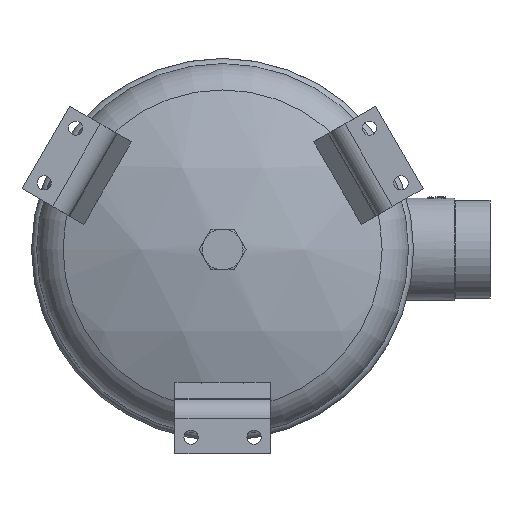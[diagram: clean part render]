
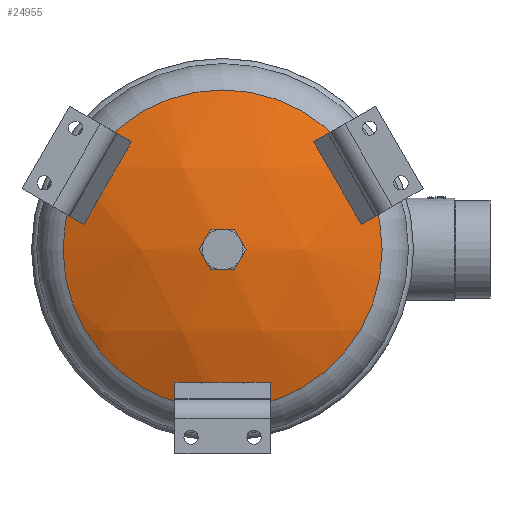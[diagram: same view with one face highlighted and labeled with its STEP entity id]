
A CAD part, front view. The second image highlights one B-rep face of the part: STEP entity #24955.
In plain terms, the highlighted spherical face has radius 279 mm.
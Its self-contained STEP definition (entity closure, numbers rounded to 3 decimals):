
#39=SPHERICAL_SURFACE('',#26829,279.);
#5707=FACE_BOUND('',#8729,.T.);
#5708=FACE_BOUND('',#8730,.T.);
#5709=FACE_BOUND('',#8731,.T.);
#5710=FACE_BOUND('',#8732,.T.);
#7205=FACE_OUTER_BOUND('',#8728,.T.);
#8728=EDGE_LOOP('',(#22754));
#8729=EDGE_LOOP('',(#22755,#22756,#22757,#22758));
#8730=EDGE_LOOP('',(#22759,#22760,#22761,#22762));
#8731=EDGE_LOOP('',(#22763,#22764,#22765,#22766));
#8732=EDGE_LOOP('',(#22767));
#9204=CIRCLE('',#26727,16.588);
#9205=CIRCLE('',#26729,16.588);
#9206=CIRCLE('',#26731,278.902);
#9213=CIRCLE('',#26742,278.999);
#9220=CIRCLE('',#26760,16.588);
#9221=CIRCLE('',#26762,16.588);
#9222=CIRCLE('',#26764,278.902);
#9229=CIRCLE('',#26775,278.999);
#9236=CIRCLE('',#26793,16.588);
#9237=CIRCLE('',#26795,16.588);
#9238=CIRCLE('',#26797,278.902);
#9245=CIRCLE('',#26808,278.999);
#9253=CIRCLE('',#26828,117.235);
#9254=CIRCLE('',#26830,11.25);
#11622=VERTEX_POINT('',#52934);
#11623=VERTEX_POINT('',#52935);
#11626=VERTEX_POINT('',#52943);
#11627=VERTEX_POINT('',#52944);
#11654=VERTEX_POINT('',#53029);
#11655=VERTEX_POINT('',#53030);
#11658=VERTEX_POINT('',#53038);
#11659=VERTEX_POINT('',#53039);
#11686=VERTEX_POINT('',#53124);
#11687=VERTEX_POINT('',#53125);
#11690=VERTEX_POINT('',#53133);
#11691=VERTEX_POINT('',#53134);
#11719=VERTEX_POINT('',#53222);
#11720=VERTEX_POINT('',#53225);
#15266=EDGE_CURVE('',#11622,#11623,#9204,.T.);
#15270=EDGE_CURVE('',#11626,#11627,#9205,.T.);
#15274=EDGE_CURVE('',#11623,#11626,#9206,.T.);
#15285=EDGE_CURVE('',#11627,#11622,#9213,.T.);
#15312=EDGE_CURVE('',#11654,#11655,#9220,.T.);
#15316=EDGE_CURVE('',#11658,#11659,#9221,.T.);
#15320=EDGE_CURVE('',#11655,#11658,#9222,.T.);
#15331=EDGE_CURVE('',#11659,#11654,#9229,.T.);
#15358=EDGE_CURVE('',#11686,#11687,#9236,.T.);
#15362=EDGE_CURVE('',#11690,#11691,#9237,.T.);
#15366=EDGE_CURVE('',#11687,#11690,#9238,.T.);
#15377=EDGE_CURVE('',#11691,#11686,#9245,.T.);
#15405=EDGE_CURVE('',#11719,#11719,#9253,.T.);
#15406=EDGE_CURVE('',#11720,#11720,#9254,.T.);
#22754=ORIENTED_EDGE('',*,*,#15405,.T.);
#22755=ORIENTED_EDGE('',*,*,#15274,.T.);
#22756=ORIENTED_EDGE('',*,*,#15270,.T.);
#22757=ORIENTED_EDGE('',*,*,#15285,.T.);
#22758=ORIENTED_EDGE('',*,*,#15266,.T.);
#22759=ORIENTED_EDGE('',*,*,#15320,.T.);
#22760=ORIENTED_EDGE('',*,*,#15316,.T.);
#22761=ORIENTED_EDGE('',*,*,#15331,.T.);
#22762=ORIENTED_EDGE('',*,*,#15312,.T.);
#22763=ORIENTED_EDGE('',*,*,#15366,.T.);
#22764=ORIENTED_EDGE('',*,*,#15362,.T.);
#22765=ORIENTED_EDGE('',*,*,#15377,.T.);
#22766=ORIENTED_EDGE('',*,*,#15358,.T.);
#22767=ORIENTED_EDGE('',*,*,#15406,.T.);
#24955=ADVANCED_FACE('',(#7205,#5707,#5708,#5709,#5710),#39,.T.);
#26727=AXIS2_PLACEMENT_3D('',#52936,#32033,#32034);
#26729=AXIS2_PLACEMENT_3D('',#52945,#32040,#32041);
#26731=AXIS2_PLACEMENT_3D('',#52952,#32047,#32048);
#26742=AXIS2_PLACEMENT_3D('',#52975,#32073,#32074);
#26760=AXIS2_PLACEMENT_3D('',#53031,#32129,#32130);
#26762=AXIS2_PLACEMENT_3D('',#53040,#32136,#32137);
#26764=AXIS2_PLACEMENT_3D('',#53047,#32143,#32144);
#26775=AXIS2_PLACEMENT_3D('',#53070,#32169,#32170);
#26793=AXIS2_PLACEMENT_3D('',#53126,#32225,#32226);
#26795=AXIS2_PLACEMENT_3D('',#53135,#32232,#32233);
#26797=AXIS2_PLACEMENT_3D('',#53142,#32239,#32240);
#26808=AXIS2_PLACEMENT_3D('',#53165,#32265,#32266);
#26828=AXIS2_PLACEMENT_3D('',#53223,#32325,#32326);
#26829=AXIS2_PLACEMENT_3D('',#53224,#32327,#32328);
#26830=AXIS2_PLACEMENT_3D('',#53226,#32329,#32330);
#32033=DIRECTION('center_axis',(-0.324,0.927,-0.187));
#32034=DIRECTION('ref_axis',(0.,-0.198,-0.98));
#32040=DIRECTION('center_axis',(-0.324,0.927,-0.187));
#32041=DIRECTION('ref_axis',(0.,-0.198,-0.98));
#32047=DIRECTION('center_axis',(-0.803,-0.375,-0.464));
#32048=DIRECTION('ref_axis',(0.,-0.778,0.629));
#32073=DIRECTION('center_axis',(0.803,0.375,0.464));
#32074=DIRECTION('ref_axis',(0.,0.778,-0.629));
#32129=DIRECTION('center_axis',(0.324,0.927,-0.187));
#32130=DIRECTION('ref_axis',(0.,-0.198,-0.98));
#32136=DIRECTION('center_axis',(0.324,0.927,-0.187));
#32137=DIRECTION('ref_axis',(0.,-0.198,-0.98));
#32143=DIRECTION('center_axis',(0.803,-0.375,-0.464));
#32144=DIRECTION('ref_axis',(0.,-0.778,0.629));
#32169=DIRECTION('center_axis',(-0.803,0.375,0.464));
#32170=DIRECTION('ref_axis',(0.,0.778,-0.629));
#32225=DIRECTION('center_axis',(0.,0.927,
0.375));
#32226=DIRECTION('ref_axis',(0.,0.375,-0.927));
#32232=DIRECTION('center_axis',(0.,0.927,
0.375));
#32233=DIRECTION('ref_axis',(0.,0.375,-0.927));
#32239=DIRECTION('center_axis',(0.,-0.375,
0.927));
#32240=DIRECTION('ref_axis',(0.,0.927,0.375));
#32265=DIRECTION('center_axis',(0.,0.375,
-0.927));
#32266=DIRECTION('ref_axis',(0.,-0.927,-0.375));
#32325=DIRECTION('center_axis',(0.,-1.,0.));
#32326=DIRECTION('ref_axis',(-1.,0.,0.));
#32327=DIRECTION('center_axis',(0.,0.,
-1.));
#32328=DIRECTION('ref_axis',(-1.,0.,0.));
#32329=DIRECTION('center_axis',(0.,1.,0.));
#32330=DIRECTION('ref_axis',(1.,0.,0.));
#52934=CARTESIAN_POINT('',(99.127,-67.366,38.09));
#52935=CARTESIAN_POINT('',(91.839,-70.363,35.878));
#52936=CARTESIAN_POINT('Origin',(90.353,-67.593,52.165));
#52943=CARTESIAN_POINT('',(76.991,-70.363,61.596));
#52944=CARTESIAN_POINT('',(82.55,-67.366,66.802));
#52945=CARTESIAN_POINT('Origin',(90.353,-67.593,52.165));
#52952=CARTESIAN_POINT('Origin',(-5.938,187.864,-3.428));
#52975=CARTESIAN_POINT('Origin',(0.486,190.861,0.281));
#53029=CARTESIAN_POINT('',(-82.55,-67.366,66.802));
#53030=CARTESIAN_POINT('',(-76.991,-70.363,61.596));
#53031=CARTESIAN_POINT('Origin',(-90.353,-67.593,52.165));
#53038=CARTESIAN_POINT('',(-91.839,-70.363,35.878));
#53039=CARTESIAN_POINT('',(-99.127,-67.366,38.09));
#53040=CARTESIAN_POINT('Origin',(-90.353,-67.593,52.165));
#53047=CARTESIAN_POINT('Origin',(5.938,187.864,-3.428));
#53070=CARTESIAN_POINT('Origin',(-0.486,190.861,0.281));
#53124=CARTESIAN_POINT('',(-16.577,-67.366,-104.891));
#53125=CARTESIAN_POINT('',(-14.849,-70.363,-97.474));
#53126=CARTESIAN_POINT('Origin',(0.,-67.593,
-104.33));
#53133=CARTESIAN_POINT('',(14.849,-70.363,-97.474));
#53134=CARTESIAN_POINT('',(16.577,-67.366,-104.891));
#53135=CARTESIAN_POINT('Origin',(0.,-67.593,
-104.33));
#53142=CARTESIAN_POINT('Origin',(0.,187.864,
6.856));
#53165=CARTESIAN_POINT('Origin',(0.,190.861,
-0.561));
#53222=CARTESIAN_POINT('',(-117.235,-62.54,0.));
#53223=CARTESIAN_POINT('Origin',(0.,-62.54,
0.));
#53224=CARTESIAN_POINT('Origin',(0.,190.634,
0.));
#53225=CARTESIAN_POINT('',(11.25,-88.139,0.));
#53226=CARTESIAN_POINT('Origin',(0.,-88.139,
0.));
